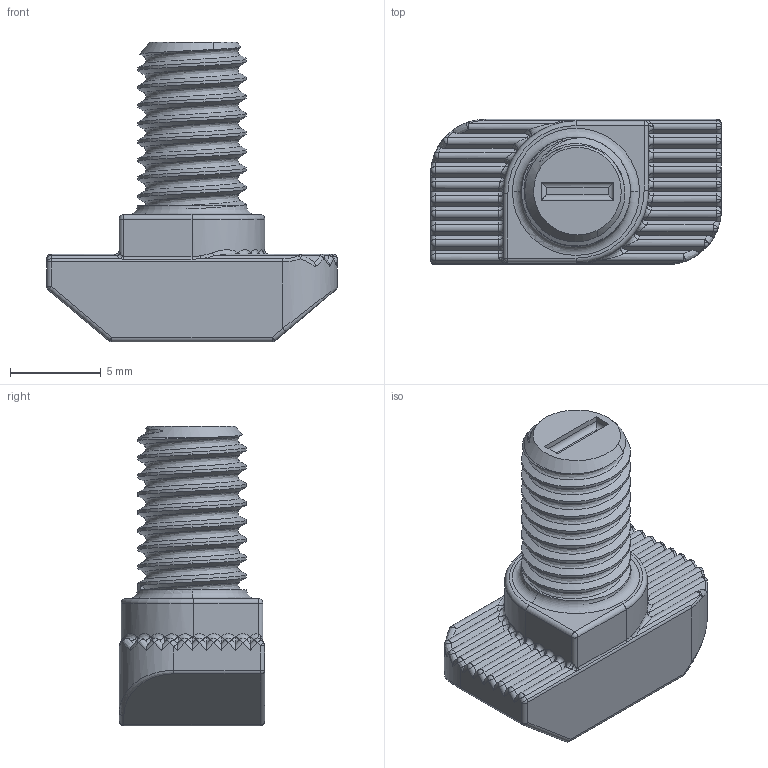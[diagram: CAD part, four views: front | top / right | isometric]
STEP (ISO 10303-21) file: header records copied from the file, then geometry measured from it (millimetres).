
FILE_DESCRIPTION (( 'STEP AP214' ), '1' );
FILE_NAME ('5298Ò-áîëò Ì6õ12 ñåðèÿ 30 ïàç 8.STEP', '2017-08-09T07:54:28', ( '' ), ( '' ), 'SwSTEP 2.0', 'SolidWorks 2014', '' );
FILE_SCHEMA (( 'AUTOMOTIVE_DESIGN' ));
Length unit declared in the file: millimetre
Products named in the file (2): 5298Ò-áîëò Ì6õ12 ñåðèÿ 30 ïàç 8
Bounding box: 16 x 8 x 16.5 mm (x, y, z)
Volume: 860.2 mm3; surface area: 727.6 mm2
Topology: 1 solids, 1 shells, 292 faces, 687 edges, 390 vertices
Faces by surface type: cylinder 110, bspline 69, plane 59, sphere 40, torus 14
Entity records: 11219 total; most frequent: CARTESIAN_POINT 5337, ORIENTED_EDGE 1352, DIRECTION 1111, EDGE_CURVE 676, AXIS2_PLACEMENT_3D 439, VERTEX_POINT 388, EDGE_LOOP 294, FACE_OUTER_BOUND 292
